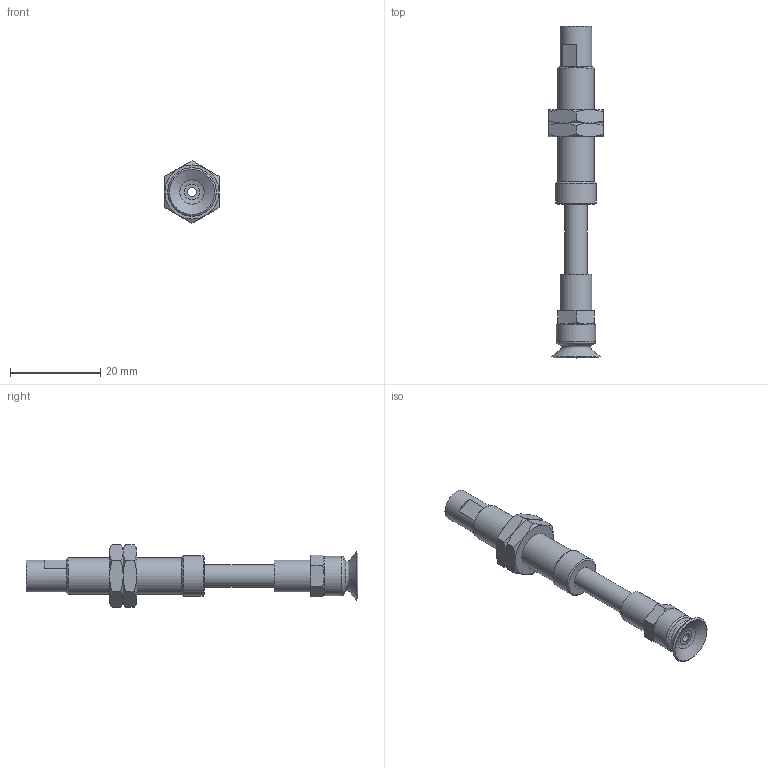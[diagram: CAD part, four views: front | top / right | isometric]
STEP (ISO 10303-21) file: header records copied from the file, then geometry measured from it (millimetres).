
FILE_DESCRIPTION(('STEP AP203'),'1');
FILE_NAME('-SPE.stp','2025-04-11T08:45:36',(' '),(' '),'Spatial InterOp 3D',' ',' ');
FILE_SCHEMA(('CONFIG_CONTROL_DESIGN'));
Length unit declared in the file: millimetre
Products named in the file (9): BNABPFTS-10A-15-※-SPE; NUT; BODY; STOPPER; ZIG; TN-PS-10-M5; Setting screws-TN-PS-10-M5; BPFG-10A-※
Assembly tree (8 placements, depth 3):
  BNABPFTS-10A-15-※-SPE
    NUT
    NUT
    BODY
    STOPPER
    ZIG
    TN-PS-10-M5
      Setting screws-TN-PS-10-M5
    BPFG-10A-※
Bounding box: 12 x 73.5 x 13.86 mm (x, y, z)
Volume: 3089.1 mm3; surface area: 4664.5 mm2
Topology: 7 solids, 7 shells, 144 faces, 298 edges, 182 vertices
Faces by surface type: plane 62, cone 48, cylinder 26, torus 7, bspline 1
Full cylindrical faces by diameter (mm): 2 x3, 3.4 x1, 3.5 x1, 3.9 x1, 4 x5, 4.2 x2, 5 x3, 5.2 x1, 6 x2, 7 x2, 7.25 x2, 8 x1, 8.7 x1, 9 x1
Entity records: 3955 total; most frequent: CARTESIAN_POINT 763, DIRECTION 592, ORIENTED_EDGE 462, AXIS2_PLACEMENT_3D 268, EDGE_CURVE 231, EDGE_LOOP 224, FACE_OUTER_BOUND 178, VERTEX_POINT 167
